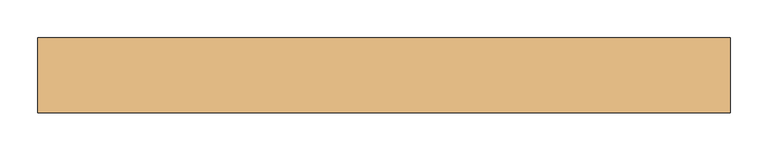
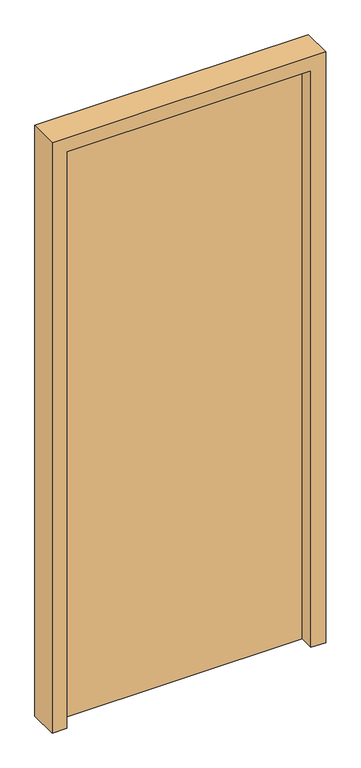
"""IFC4 building model written with IfcOpenShell, lengths in millimetres: door geometry, (Dr)_ДУ(распашная)_1Ст_Прямоугольная : (Вн)_ДГ(0.92х2.1(h))."""

from ifc_helpers import new_model, si_unit, frame, origin, origin_with_axes, place, context, project, spatial, polyline, outline, extrude, source, transform, mapped, element, save


def door_13706d25(model_context):
    return source(origin(), model_context, "Body", "SweptSolid", [
        extrude(outline(polyline([(410.0, 100.0), (410.0, 50.0), (-410.0, 50.0), (-410.0, 100.0), (410.0, 100.0)])), origin_with_axes(), (0.0, 0.0, 1.0), 2050.0),
        extrude(outline(polyline([(0.0, -460.0), (0.0, -410.0), (2050.0, -410.0), (2050.0, 410.0), (0.0, 410.0), (0.0, 460.0), (2100.0, 460.0), (2100.0, -460.0), (0.0, -460.0)])), frame((0.0, 0.0, 0.0), z_axis=(0.0, 1.0, 0.0), x_axis=(0.0, 0.0, 1.0)), (0.0, 0.0, 1.0), 100.0),
    ])


if __name__ == "__main__":
    model = new_model("IFC4")
    model_context = context("Model", 3, world=origin())
    ifc_project = project(units=[si_unit("LENGTHUNIT", "METRE", prefix="MILLI")], contexts=[model_context])
    site = spatial("IfcSite", under=ifc_project)
    building = spatial("IfcBuilding", under=site)
    placement = place(None, origin())
    door_shape = door_13706d25(model_context)
    element("IfcDoor", 1, ObjectType="(Dr)_ДУ(распашная)_1Ст_Прямоугольная : (Вн)_ДГ(0.92х2.1(h))", at=placement, inside=building, context=model_context, shape_type="MappedRepresentation", body=[
        mapped(door_shape, transform((0.0, 0.0, 0.0), x_axis=(1.0, 0.0, 0.0), y_axis=(0.0, 1.0, 0.0), z_axis=(0.0, 0.0, 1.0))),
    ])
    save(model, "model.ifc")
